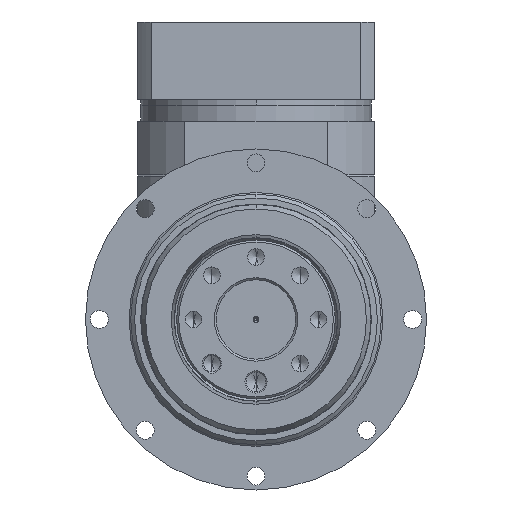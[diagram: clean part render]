
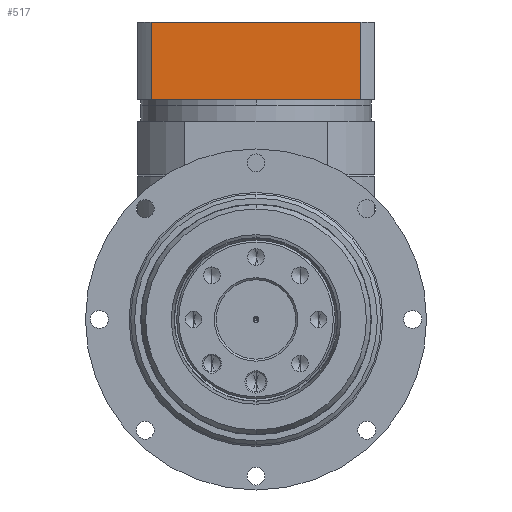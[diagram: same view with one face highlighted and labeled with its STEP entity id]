
A CAD part, left-side view. The second image highlights one B-rep face of the part: STEP entity #517.
In plain terms, the highlighted planar face has unit normal (-1, 0, 0).
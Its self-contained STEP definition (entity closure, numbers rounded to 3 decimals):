
#209 = VERTEX_POINT ( 'NONE', #1285 ) ;
#517 = ADVANCED_FACE ( 'NONE', ( #4965 ), #9300, .T. ) ;
#748 = ORIENTED_EDGE ( 'NONE', *, *, #14651, .T. ) ;
#845 = CARTESIAN_POINT ( 'NONE',  ( 15., 0., 55.5 ) ) ;
#1285 = CARTESIAN_POINT ( 'NONE',  ( 15., -26.458, 55.5 ) ) ;
#1420 = CARTESIAN_POINT ( 'NONE',  ( 15., 26.458, 75. ) ) ;
#1433 = EDGE_CURVE ( 'NONE', #1707, #209, #3692, .T. ) ;
#1707 = VERTEX_POINT ( 'NONE', #10533 ) ;
#2124 = VECTOR ( 'NONE', #16639, 1000. ) ;
#3692 = LINE ( 'NONE', #845, #16024 ) ;
#3778 = ORIENTED_EDGE ( 'NONE', *, *, #1433, .T. ) ;
#4965 = FACE_OUTER_BOUND ( 'NONE', #14646, .T. ) ;
#5601 = CARTESIAN_POINT ( 'NONE',  ( 15., -26.458, 52. ) ) ;
#5715 = CARTESIAN_POINT ( 'NONE',  ( 15., 26.458, 52. ) ) ;
#6091 = VERTEX_POINT ( 'NONE', #7132 ) ;
#6349 = DIRECTION ( 'NONE',  ( 0., -1., 0. ) ) ;
#7132 = CARTESIAN_POINT ( 'NONE',  ( 15., -26.458, 75. ) ) ;
#7870 = LINE ( 'NONE', #5601, #2124 ) ;
#8498 = EDGE_CURVE ( 'NONE', #16191, #6091, #15990, .T. ) ;
#8773 = VECTOR ( 'NONE', #12310, 1000. ) ;
#9300 = PLANE ( 'NONE',  #10490 ) ;
#10127 = LINE ( 'NONE', #5715, #13960 ) ;
#10490 = AXIS2_PLACEMENT_3D ( 'NONE', #16031, #13352, #16262 ) ;
#10533 = CARTESIAN_POINT ( 'NONE',  ( 15., 26.458, 55.5 ) ) ;
#11797 = EDGE_CURVE ( 'NONE', #209, #6091, #7870, .T. ) ;
#12226 = ORIENTED_EDGE ( 'NONE', *, *, #8498, .F. ) ;
#12260 = CARTESIAN_POINT ( 'NONE',  ( 15., 30., 75. ) ) ;
#12310 = DIRECTION ( 'NONE',  ( 0., -1., 0. ) ) ;
#13352 = DIRECTION ( 'NONE',  ( -1., 0., 0. ) ) ;
#13960 = VECTOR ( 'NONE', #16816, 1000. ) ;
#13991 = ORIENTED_EDGE ( 'NONE', *, *, #11797, .T. ) ;
#14646 = EDGE_LOOP ( 'NONE', ( #748, #3778, #13991, #12226 ) ) ;
#14651 = EDGE_CURVE ( 'NONE', #16191, #1707, #10127, .T. ) ;
#15990 = LINE ( 'NONE', #12260, #8773 ) ;
#16024 = VECTOR ( 'NONE', #6349, 1000. ) ;
#16031 = CARTESIAN_POINT ( 'NONE',  ( 15., 30., -59.915 ) ) ;
#16191 = VERTEX_POINT ( 'NONE', #1420 ) ;
#16262 = DIRECTION ( 'NONE',  ( 0., -1., 0. ) ) ;
#16639 = DIRECTION ( 'NONE',  ( 0., 0., 1. ) ) ;
#16816 = DIRECTION ( 'NONE',  ( 0., 0., -1. ) ) ;
